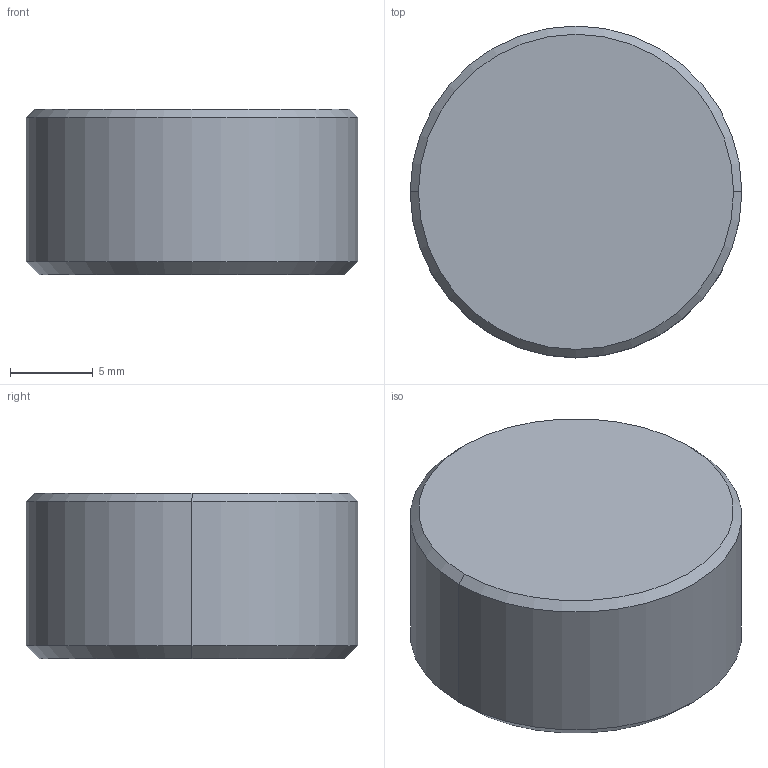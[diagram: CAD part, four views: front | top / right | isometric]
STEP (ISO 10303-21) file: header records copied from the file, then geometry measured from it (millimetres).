
FILE_DESCRIPTION (( 'STEP AP203' ), '1' );
FILE_NAME ('srp-200.STEP', '2021-10-25T04:28:56', ( '' ), ( '' ), 'SwSTEP 2.0', 'SolidWorks 2020', '' );
FILE_SCHEMA (( 'CONFIG_CONTROL_DESIGN' ));
Length unit declared in the file: millimetre
Products named in the file (1): srp-200
Bounding box: 20 x 20 x 10 mm (x, y, z)
Volume: 2972.9 mm3; surface area: 1301.9 mm2
Topology: 1 solids, 1 shells, 11 faces, 20 edges, 12 vertices
Faces by surface type: cone 4, cylinder 4, plane 3
Entity records: 351 total; most frequent: DIRECTION 56, CARTESIAN_POINT 44, ORIENTED_EDGE 40, AXIS2_PLACEMENT_3D 24, EDGE_CURVE 20, VERTEX_POINT 12, EDGE_LOOP 12, CIRCLE 12
